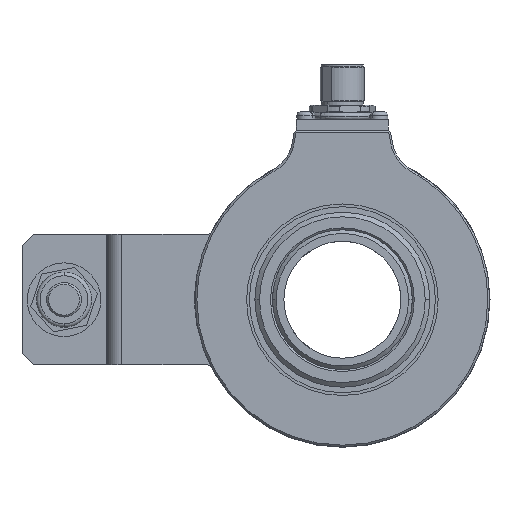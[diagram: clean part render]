
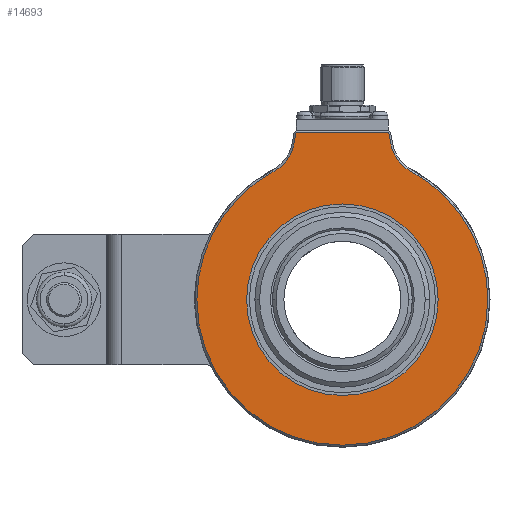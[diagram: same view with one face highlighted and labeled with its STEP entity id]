
A CAD part, left-side view. The second image highlights one B-rep face of the part: STEP entity #14693.
In plain terms, the highlighted planar face has unit normal (-1, 0, 0).
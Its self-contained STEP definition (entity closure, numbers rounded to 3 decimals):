
#633 = ORIENTED_EDGE ( 'NONE', *, *, #17798, .T. ) ;
#649 = CARTESIAN_POINT ( 'NONE',  ( -26., -18.776, 10.364 ) ) ;
#942 = CARTESIAN_POINT ( 'NONE',  ( -26., 0., 0. ) ) ;
#1076 = DIRECTION ( 'NONE',  ( 0., -1., 0. ) ) ;
#1258 = VERTEX_POINT ( 'NONE', #20480 ) ;
#1718 = VECTOR ( 'NONE', #11076, 1000. ) ;
#1947 = CARTESIAN_POINT ( 'NONE',  ( -26., 0., 0. ) ) ;
#2497 = AXIS2_PLACEMENT_3D ( 'NONE', #17809, #12034, #21408 ) ;
#3159 = EDGE_CURVE ( 'NONE', #3962, #23504, #16261, .T. ) ;
#3220 = EDGE_CURVE ( 'NONE', #8331, #14398, #15923, .T. ) ;
#3253 = PLANE ( 'NONE',  #17788 ) ;
#3778 = VECTOR ( 'NONE', #15359, 1000. ) ;
#3858 = EDGE_CURVE ( 'NONE', #12542, #22225, #10601, .T. ) ;
#3875 = LINE ( 'NONE', #649, #17946 ) ;
#3962 = VERTEX_POINT ( 'NONE', #7906 ) ;
#4128 = CARTESIAN_POINT ( 'NONE',  ( -26., -12.58, 45.5 ) ) ;
#5453 = DIRECTION ( 'NONE',  ( 1., 0., 0. ) ) ;
#5484 = AXIS2_PLACEMENT_3D ( 'NONE', #18230, #5453, #14360 ) ;
#5544 = CIRCLE ( 'NONE', #16693, 39.5 ) ;
#5948 = ORIENTED_EDGE ( 'NONE', *, *, #13883, .T. ) ;
#6243 = CARTESIAN_POINT ( 'NONE',  ( -26., 0., 0. ) ) ;
#6280 = EDGE_CURVE ( 'NONE', #22225, #1258, #12201, .T. ) ;
#6897 = AXIS2_PLACEMENT_3D ( 'NONE', #14020, #20299, #8962 ) ;
#6991 = FACE_OUTER_BOUND ( 'NONE', #11134, .T. ) ;
#7906 = CARTESIAN_POINT ( 'NONE',  ( -26., -26., 0. ) ) ;
#8059 = CARTESIAN_POINT ( 'NONE',  ( -26., 23.482, 44.143 ) ) ;
#8331 = VERTEX_POINT ( 'NONE', #10237 ) ;
#8456 = DIRECTION ( 'NONE',  ( 0., 0.174, 0.985 ) ) ;
#8962 = DIRECTION ( 'NONE',  ( 0., -1., 0. ) ) ;
#9008 = CARTESIAN_POINT ( 'NONE',  ( -26., 21.188, -3.317 ) ) ;
#9020 = DIRECTION ( 'NONE',  ( 0., -1., 0. ) ) ;
#9124 = ORIENTED_EDGE ( 'NONE', *, *, #6280, .T. ) ;
#9314 = DIRECTION ( 'NONE',  ( 0., -1., 0. ) ) ;
#9979 = DIRECTION ( 'NONE',  ( 0., -1., 0. ) ) ;
#10237 = CARTESIAN_POINT ( 'NONE',  ( -26., 39.5, 0. ) ) ;
#10601 = LINE ( 'NONE', #9008, #1718 ) ;
#11076 = DIRECTION ( 'NONE',  ( 0., 0.174, -0.985 ) ) ;
#11134 = EDGE_LOOP ( 'NONE', ( #21560, #23545, #20777, #9124, #18534, #21397, #633, #5948 ) ) ;
#11690 = AXIS2_PLACEMENT_3D ( 'NONE', #1947, #14495, #9314 ) ;
#12034 = DIRECTION ( 'NONE',  ( 1., 0., 0. ) ) ;
#12130 = DIRECTION ( 'NONE',  ( 1., 0., 0. ) ) ;
#12201 = CIRCLE ( 'NONE', #13352, 10.5 ) ;
#12542 = VERTEX_POINT ( 'NONE', #15406 ) ;
#12646 = CARTESIAN_POINT ( 'NONE',  ( -26., 26., 0. ) ) ;
#12863 = ORIENTED_EDGE ( 'NONE', *, *, #3159, .T. ) ;
#13157 = CIRCLE ( 'NONE', #19716, 39.5 ) ;
#13352 = AXIS2_PLACEMENT_3D ( 'NONE', #8059, #12130, #9979 ) ;
#13883 = EDGE_CURVE ( 'NONE', #22501, #19566, #22046, .T. ) ;
#14020 = CARTESIAN_POINT ( 'NONE',  ( -26., -23.482, 44.143 ) ) ;
#14209 = ORIENTED_EDGE ( 'NONE', *, *, #19023, .T. ) ;
#14360 = DIRECTION ( 'NONE',  ( 0., 1., 0. ) ) ;
#14398 = VERTEX_POINT ( 'NONE', #21926 ) ;
#14440 = DIRECTION ( 'NONE',  ( -1., 0., 0. ) ) ;
#14495 = DIRECTION ( 'NONE',  ( -1., 0., 0. ) ) ;
#14693 = ADVANCED_FACE ( 'NONE', ( #6991, #19767 ), #3253, .T. ) ;
#14787 = EDGE_CURVE ( 'NONE', #1258, #8331, #13157, .T. ) ;
#15149 = DIRECTION ( 'NONE',  ( 0., -1., 0. ) ) ;
#15234 = LINE ( 'NONE', #21130, #3778 ) ;
#15359 = DIRECTION ( 'NONE',  ( 0., 1., 0. ) ) ;
#15406 = CARTESIAN_POINT ( 'NONE',  ( -26., 12.58, 45.5 ) ) ;
#15601 = CIRCLE ( 'NONE', #2497, 26. ) ;
#15652 = DIRECTION ( 'NONE',  ( -1., 0., 0. ) ) ;
#15923 = CIRCLE ( 'NONE', #11690, 39.5 ) ;
#16261 = CIRCLE ( 'NONE', #5484, 26. ) ;
#16693 = AXIS2_PLACEMENT_3D ( 'NONE', #942, #15652, #15149 ) ;
#17788 = AXIS2_PLACEMENT_3D ( 'NONE', #22015, #14440, #9020 ) ;
#17798 = EDGE_CURVE ( 'NONE', #14398, #22501, #5544, .T. ) ;
#17809 = CARTESIAN_POINT ( 'NONE',  ( -26., 0., 0. ) ) ;
#17946 = VECTOR ( 'NONE', #8456, 1000. ) ;
#18230 = CARTESIAN_POINT ( 'NONE',  ( -26., 0., 0. ) ) ;
#18534 = ORIENTED_EDGE ( 'NONE', *, *, #14787, .T. ) ;
#19023 = EDGE_CURVE ( 'NONE', #23504, #3962, #15601, .T. ) ;
#19566 = VERTEX_POINT ( 'NONE', #21150 ) ;
#19716 = AXIS2_PLACEMENT_3D ( 'NONE', #6243, #20943, #1076 ) ;
#19767 = FACE_BOUND ( 'NONE', #22885, .T. ) ;
#20299 = DIRECTION ( 'NONE',  ( 1., 0., 0. ) ) ;
#20480 = CARTESIAN_POINT ( 'NONE',  ( -26., 18.551, 34.873 ) ) ;
#20777 = ORIENTED_EDGE ( 'NONE', *, *, #3858, .T. ) ;
#20943 = DIRECTION ( 'NONE',  ( -1., 0., 0. ) ) ;
#21130 = CARTESIAN_POINT ( 'NONE',  ( -26., 40., 45.5 ) ) ;
#21150 = CARTESIAN_POINT ( 'NONE',  ( -26., -13.141, 42.32 ) ) ;
#21335 = VERTEX_POINT ( 'NONE', #4128 ) ;
#21397 = ORIENTED_EDGE ( 'NONE', *, *, #3220, .T. ) ;
#21408 = DIRECTION ( 'NONE',  ( 0., 1., 0. ) ) ;
#21560 = ORIENTED_EDGE ( 'NONE', *, *, #22179, .T. ) ;
#21926 = CARTESIAN_POINT ( 'NONE',  ( -26., -39.5, 0. ) ) ;
#22015 = CARTESIAN_POINT ( 'NONE',  ( -26., 40., 0. ) ) ;
#22022 = CARTESIAN_POINT ( 'NONE',  ( -26., -18.551, 34.873 ) ) ;
#22046 = CIRCLE ( 'NONE', #6897, 10.5 ) ;
#22179 = EDGE_CURVE ( 'NONE', #19566, #21335, #3875, .T. ) ;
#22225 = VERTEX_POINT ( 'NONE', #23030 ) ;
#22501 = VERTEX_POINT ( 'NONE', #22022 ) ;
#22885 = EDGE_LOOP ( 'NONE', ( #14209, #12863 ) ) ;
#23030 = CARTESIAN_POINT ( 'NONE',  ( -26., 13.141, 42.32 ) ) ;
#23395 = EDGE_CURVE ( 'NONE', #21335, #12542, #15234, .T. ) ;
#23504 = VERTEX_POINT ( 'NONE', #12646 ) ;
#23545 = ORIENTED_EDGE ( 'NONE', *, *, #23395, .T. ) ;
